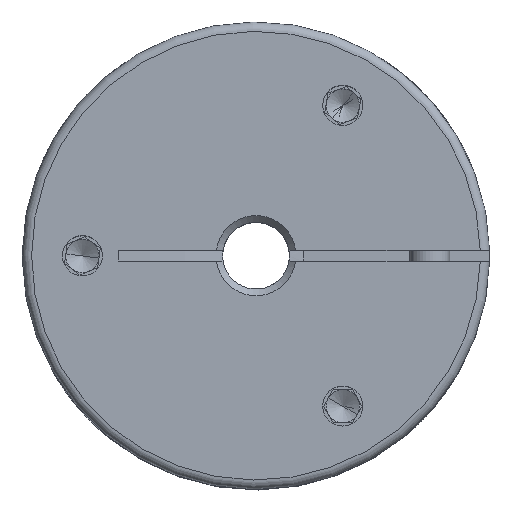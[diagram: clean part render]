
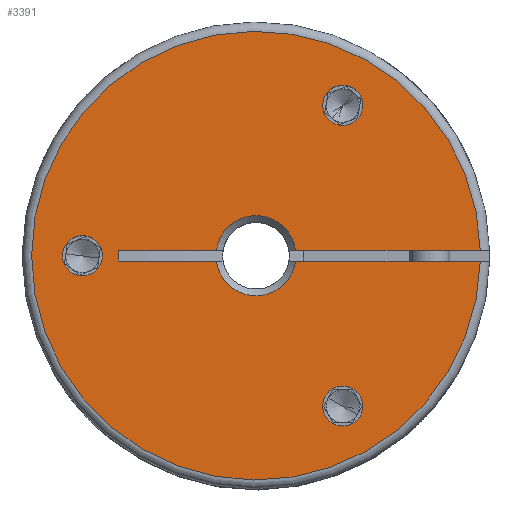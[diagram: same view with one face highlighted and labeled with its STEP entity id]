
A CAD part, top view. The second image highlights one B-rep face of the part: STEP entity #3391.
In plain terms, the highlighted planar face has unit normal (0, 0, 1).
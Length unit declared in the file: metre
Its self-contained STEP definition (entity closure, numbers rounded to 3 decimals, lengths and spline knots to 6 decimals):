
#202 = FACE_BOUND ( 'NONE', #1258, .T. ) ;
#354 = VERTEX_POINT ( 'NONE', #2524 ) ;
#541 = EDGE_CURVE ( 'NONE', #15781, #11096, #1375, .T. ) ;
#819 = DIRECTION ( 'NONE',  ( 1., 0., 0. ) ) ;
#832 = ORIENTED_EDGE ( 'NONE', *, *, #7513, .F. ) ;
#836 = CIRCLE ( 'NONE', #12473, 0.0168 ) ;
#1076 = VERTEX_POINT ( 'NONE', #7239 ) ;
#1135 = DIRECTION ( 'NONE',  ( 1., 0., 0. ) ) ;
#1258 = EDGE_LOOP ( 'NONE', ( #832, #4801 ) ) ;
#1275 = CARTESIAN_POINT ( 'NONE',  ( 0.0067, -0.010858, 0.0136 ) ) ;
#1286 = ORIENTED_EDGE ( 'NONE', *, *, #14393, .T. ) ;
#1373 = DIRECTION ( 'NONE',  ( -1., 0., 0. ) ) ;
#1375 = CIRCLE ( 'NONE', #15842, 0.0015 ) ;
#1395 = VECTOR ( 'NONE', #1373, 1. ) ;
#1519 = CARTESIAN_POINT ( 'NONE',  ( 0.0002, 0.0004, 0.0136 ) ) ;
#1689 = VERTEX_POINT ( 'NONE', #13437 ) ;
#2024 = ORIENTED_EDGE ( 'NONE', *, *, #9656, .F. ) ;
#2497 = CARTESIAN_POINT ( 'NONE',  ( 0.0082, 0.011658, 0.0136 ) ) ;
#2524 = CARTESIAN_POINT ( 'NONE',  ( -0.0143, 0.0004, 0.0136 ) ) ;
#2864 = ORIENTED_EDGE ( 'NONE', *, *, #5671, .T. ) ;
#2888 = VERTEX_POINT ( 'NONE', #4903 ) ;
#3266 = AXIS2_PLACEMENT_3D ( 'NONE', #14287, #17051, #9060 ) ;
#3300 = DIRECTION ( 'NONE',  ( 1., 0., 0. ) ) ;
#3391 = ADVANCED_FACE ( 'NONE', ( #12610, #3508, #202, #7234 ), #3588, .T. ) ;
#3508 = FACE_BOUND ( 'NONE', #5220, .T. ) ;
#3558 = DIRECTION ( 'NONE',  ( 1., 0., 0. ) ) ;
#3588 = PLANE ( 'NONE',  #9279 ) ;
#3854 = VERTEX_POINT ( 'NONE', #16383 ) ;
#3857 = LINE ( 'NONE', #15733, #9842 ) ;
#4540 = VERTEX_POINT ( 'NONE', #16412 ) ;
#4585 = ORIENTED_EDGE ( 'NONE', *, *, #7977, .T. ) ;
#4801 = ORIENTED_EDGE ( 'NONE', *, *, #7271, .F. ) ;
#4822 = LINE ( 'NONE', #10680, #14962 ) ;
#4827 = DIRECTION ( 'NONE',  ( -1., 0., 0. ) ) ;
#4903 = CARTESIAN_POINT ( 'NONE',  ( 0.016995, 0.0008, 0.0136 ) ) ;
#4922 = ORIENTED_EDGE ( 'NONE', *, *, #8563, .F. ) ;
#5041 = AXIS2_PLACEMENT_3D ( 'NONE', #1519, #12111, #819 ) ;
#5067 = DIRECTION ( 'NONE',  ( 1., 0., 0. ) ) ;
#5178 = DIRECTION ( 'NONE',  ( 0., 0., 1. ) ) ;
#5195 = AXIS2_PLACEMENT_3D ( 'NONE', #10080, #7378, #3558 ) ;
#5220 = EDGE_LOOP ( 'NONE', ( #15748, #12704 ) ) ;
#5296 = DIRECTION ( 'NONE',  ( -1., 0., 0. ) ) ;
#5352 = CARTESIAN_POINT ( 'NONE',  ( 0.0002, 0., 0.0136 ) ) ;
#5671 = EDGE_CURVE ( 'NONE', #7020, #4540, #16579, .T. ) ;
#5679 = CIRCLE ( 'NONE', #5195, 0.0015 ) ;
#6374 = CARTESIAN_POINT ( 'NONE',  ( -0.002773, 0.0008, 0.0136 ) ) ;
#6715 = CARTESIAN_POINT ( 'NONE',  ( 0.0002, 0., 0.0136 ) ) ;
#7020 = VERTEX_POINT ( 'NONE', #8598 ) ;
#7234 = FACE_OUTER_BOUND ( 'NONE', #9438, .T. ) ;
#7239 = CARTESIAN_POINT ( 'NONE',  ( 0.016995, 0., 0.0136 ) ) ;
#7271 = EDGE_CURVE ( 'NONE', #16581, #12880, #7356, .T. ) ;
#7356 = CIRCLE ( 'NONE', #14908, 0.0015 ) ;
#7378 = DIRECTION ( 'NONE',  ( 0., 0., 1. ) ) ;
#7513 = EDGE_CURVE ( 'NONE', #12880, #16581, #16067, .T. ) ;
#7721 = DIRECTION ( 'NONE',  ( 0., -1., 0. ) ) ;
#7754 = CARTESIAN_POINT ( 'NONE',  ( 0.0052, 0.011658, 0.0136 ) ) ;
#7777 = DIRECTION ( 'NONE',  ( -1., 0., 0. ) ) ;
#7886 = DIRECTION ( 'NONE',  ( 1., 0., 0. ) ) ;
#7977 = EDGE_CURVE ( 'NONE', #9141, #14629, #13756, .T. ) ;
#8485 = DIRECTION ( 'NONE',  ( 0., 0., 1. ) ) ;
#8563 = EDGE_CURVE ( 'NONE', #3854, #4540, #3857, .T. ) ;
#8579 = CARTESIAN_POINT ( 'NONE',  ( -0.0128, 0.0004, 0.0136 ) ) ;
#8598 = CARTESIAN_POINT ( 'NONE',  ( -0.002773, 0., 0.0136 ) ) ;
#8708 = EDGE_CURVE ( 'NONE', #1076, #9814, #9619, .T. ) ;
#8851 = EDGE_CURVE ( 'NONE', #11096, #15781, #17130, .T. ) ;
#8961 = EDGE_CURVE ( 'NONE', #354, #1689, #5679, .T. ) ;
#9060 = DIRECTION ( 'NONE',  ( 1., 0., 0. ) ) ;
#9141 = VERTEX_POINT ( 'NONE', #6374 ) ;
#9279 = AXIS2_PLACEMENT_3D ( 'NONE', #14283, #15622, #1135 ) ;
#9438 = EDGE_LOOP ( 'NONE', ( #13312, #11011, #1286, #2864, #4922, #2024, #4585, #10702 ) ) ;
#9619 = LINE ( 'NONE', #5352, #16294 ) ;
#9656 = EDGE_CURVE ( 'NONE', #9141, #3854, #12703, .T. ) ;
#9704 = CARTESIAN_POINT ( 'NONE',  ( 0.0052, -0.010858, 0.0136 ) ) ;
#9751 = DIRECTION ( 'NONE',  ( 1., 0., 0. ) ) ;
#9814 = VERTEX_POINT ( 'NONE', #14960 ) ;
#9842 = VECTOR ( 'NONE', #7721, 1. ) ;
#10080 = CARTESIAN_POINT ( 'NONE',  ( -0.0128, 0.0004, 0.0136 ) ) ;
#10241 = CARTESIAN_POINT ( 'NONE',  ( 0.003173, 0.0008, 0.0136 ) ) ;
#10367 = DIRECTION ( 'NONE',  ( 1., 0., 0. ) ) ;
#10368 = EDGE_CURVE ( 'NONE', #2888, #14629, #4822, .T. ) ;
#10542 = DIRECTION ( 'NONE',  ( 0., 0., 1. ) ) ;
#10680 = CARTESIAN_POINT ( 'NONE',  ( 0.0002, 0.0008, 0.0136 ) ) ;
#10702 = ORIENTED_EDGE ( 'NONE', *, *, #10368, .F. ) ;
#10828 = EDGE_LOOP ( 'NONE', ( #13978, #11397 ) ) ;
#10845 = CIRCLE ( 'NONE', #11435, 0.0015 ) ;
#11011 = ORIENTED_EDGE ( 'NONE', *, *, #8708, .T. ) ;
#11096 = VERTEX_POINT ( 'NONE', #7754 ) ;
#11397 = ORIENTED_EDGE ( 'NONE', *, *, #8961, .F. ) ;
#11435 = AXIS2_PLACEMENT_3D ( 'NONE', #8579, #12625, #3300 ) ;
#12111 = DIRECTION ( 'NONE',  ( 0., 0., -1. ) ) ;
#12324 = EDGE_CURVE ( 'NONE', #1689, #354, #10845, .T. ) ;
#12473 = AXIS2_PLACEMENT_3D ( 'NONE', #14262, #5178, #5067 ) ;
#12476 = AXIS2_PLACEMENT_3D ( 'NONE', #17023, #12917, #10367 ) ;
#12610 = FACE_BOUND ( 'NONE', #10828, .T. ) ;
#12625 = DIRECTION ( 'NONE',  ( 0., 0., 1. ) ) ;
#12703 = LINE ( 'NONE', #13907, #17098 ) ;
#12704 = ORIENTED_EDGE ( 'NONE', *, *, #8851, .F. ) ;
#12880 = VERTEX_POINT ( 'NONE', #16523 ) ;
#12917 = DIRECTION ( 'NONE',  ( 0., 0., -1. ) ) ;
#13312 = ORIENTED_EDGE ( 'NONE', *, *, #14179, .T. ) ;
#13437 = CARTESIAN_POINT ( 'NONE',  ( -0.0113, 0.0004, 0.0136 ) ) ;
#13756 = CIRCLE ( 'NONE', #12476, 0.003 ) ;
#13907 = CARTESIAN_POINT ( 'NONE',  ( 0.0002, 0.0008, 0.0136 ) ) ;
#13978 = ORIENTED_EDGE ( 'NONE', *, *, #12324, .F. ) ;
#14061 = AXIS2_PLACEMENT_3D ( 'NONE', #15142, #16564, #9751 ) ;
#14179 = EDGE_CURVE ( 'NONE', #2888, #1076, #836, .T. ) ;
#14262 = CARTESIAN_POINT ( 'NONE',  ( 0.0002, 0.0004, 0.0136 ) ) ;
#14283 = CARTESIAN_POINT ( 'NONE',  ( 0.0002, 0.0004, 0.0136 ) ) ;
#14287 = CARTESIAN_POINT ( 'NONE',  ( 0.0067, -0.010858, 0.0136 ) ) ;
#14393 = EDGE_CURVE ( 'NONE', #9814, #7020, #14710, .T. ) ;
#14629 = VERTEX_POINT ( 'NONE', #10241 ) ;
#14710 = CIRCLE ( 'NONE', #5041, 0.003 ) ;
#14908 = AXIS2_PLACEMENT_3D ( 'NONE', #1275, #10542, #7886 ) ;
#14960 = CARTESIAN_POINT ( 'NONE',  ( 0.003173, 0., 0.0136 ) ) ;
#14962 = VECTOR ( 'NONE', #5296, 1. ) ;
#15142 = CARTESIAN_POINT ( 'NONE',  ( 0.0067, 0.011658, 0.0136 ) ) ;
#15622 = DIRECTION ( 'NONE',  ( 0., 0., 1. ) ) ;
#15733 = CARTESIAN_POINT ( 'NONE',  ( -0.01013, 0., 0.0136 ) ) ;
#15748 = ORIENTED_EDGE ( 'NONE', *, *, #541, .F. ) ;
#15781 = VERTEX_POINT ( 'NONE', #2497 ) ;
#15842 = AXIS2_PLACEMENT_3D ( 'NONE', #16455, #8485, #16339 ) ;
#16067 = CIRCLE ( 'NONE', #3266, 0.0015 ) ;
#16294 = VECTOR ( 'NONE', #7777, 1. ) ;
#16339 = DIRECTION ( 'NONE',  ( 1., 0., 0. ) ) ;
#16383 = CARTESIAN_POINT ( 'NONE',  ( -0.01013, 0.0008, 0.0136 ) ) ;
#16412 = CARTESIAN_POINT ( 'NONE',  ( -0.01013, 0., 0.0136 ) ) ;
#16455 = CARTESIAN_POINT ( 'NONE',  ( 0.0067, 0.011658, 0.0136 ) ) ;
#16523 = CARTESIAN_POINT ( 'NONE',  ( 0.0082, -0.010858, 0.0136 ) ) ;
#16564 = DIRECTION ( 'NONE',  ( 0., 0., 1. ) ) ;
#16579 = LINE ( 'NONE', #6715, #1395 ) ;
#16581 = VERTEX_POINT ( 'NONE', #9704 ) ;
#17023 = CARTESIAN_POINT ( 'NONE',  ( 0.0002, 0.0004, 0.0136 ) ) ;
#17051 = DIRECTION ( 'NONE',  ( 0., 0., 1. ) ) ;
#17098 = VECTOR ( 'NONE', #4827, 1. ) ;
#17130 = CIRCLE ( 'NONE', #14061, 0.0015 ) ;
